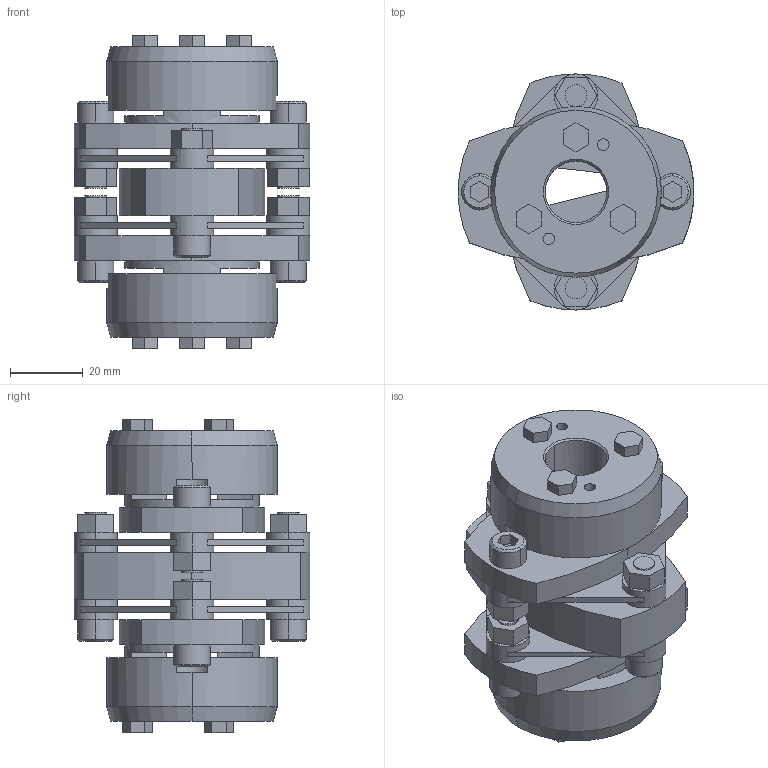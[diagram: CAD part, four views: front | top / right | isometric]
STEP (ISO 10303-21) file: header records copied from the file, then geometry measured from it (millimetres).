
FILE_DESCRIPTION((''),'2;1');
FILE_NAME('LCD-65T7-17×17.stp','2011-08-23T13:57:15',(''),(''),'AutoCAD STEP 2000i','AutoCAD 2000i',', , ');
FILE_SCHEMA(('CONFIG_CONTROL_DESIGN'));
Length unit declared in the file: millimetre
Products named in the file (7): LCD-65T7-17×17; 忣兜1; LC65T7-T017-1; LC65T7-T017; LC65T7-T015-1; LC65T7-T015; LCD65-ITA
Assembly tree (6 placements, depth 2):
  LCD-65T7-17×17
    忣兜1
    LC65T7-T017-1
    LC65T7-T017
    LC65T7-T015-1
    LC65T7-T015
    LCD65-ITA
Bounding box: 65 x 65 x 86.4 mm (x, y, z)
Volume: 120884.4 mm3; surface area: 41499.7 mm2
Topology: 1 solids, 1 shells, 304 faces, 792 edges, 516 vertices
Faces by surface type: plane 180, cylinder 100, cone 24
Entity records: 9591 total; most frequent: DIRECTION 1706, CARTESIAN_POINT 1619, ORIENTED_EDGE 1584, EDGE_CURVE 792, AXIS2_PLACEMENT_3D 603, VERTEX_POINT 516, VECTOR 500, LINE 500
